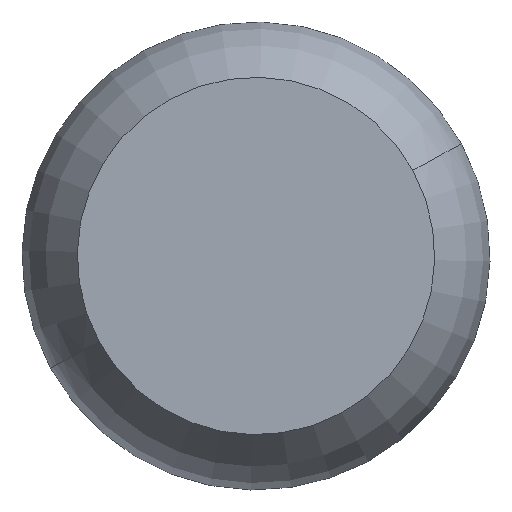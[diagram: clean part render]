
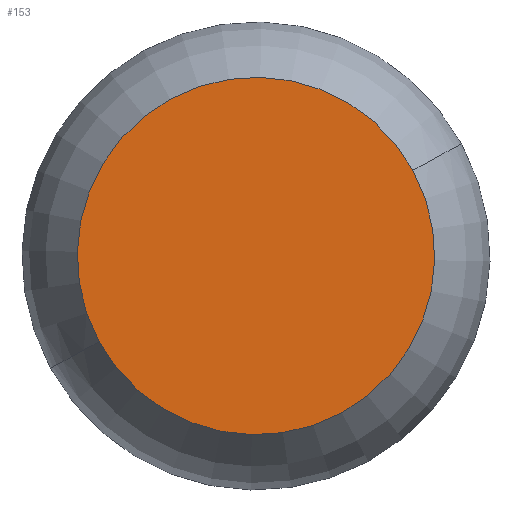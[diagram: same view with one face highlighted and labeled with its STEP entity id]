
A CAD part, front view. The second image highlights one B-rep face of the part: STEP entity #153.
In plain terms, the highlighted planar face has unit normal (0, -1, 0).
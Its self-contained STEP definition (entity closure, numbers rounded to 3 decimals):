
#66=CARTESIAN_POINT('Axis2P3D Location',(0.,0.,0.)) ;
#70=CARTESIAN_POINT('Vertex',(92.146,0.,50.34)) ;
#72=CARTESIAN_POINT('Vertex',(-92.146,0.,-50.34)) ;
#127=CARTESIAN_POINT('Axis2P3D Location',(0.,0.,0.)) ;
#144=CARTESIAN_POINT('Axis2P3D Location',(0.,0.,0.)) ;
#67=DIRECTION('Axis2P3D Direction',(0.,-1.,0.)) ;
#128=DIRECTION('Axis2P3D Direction',(0.,-1.,0.)) ;
#145=DIRECTION('Axis2P3D Direction',(0.,-1.,0.)) ;
#146=DIRECTION('Axis2P3D XDirection',(1.,0.,0.)) ;
#68=AXIS2_PLACEMENT_3D('Circle Axis2P3D',#66,#67,$) ;
#129=AXIS2_PLACEMENT_3D('Circle Axis2P3D',#127,#128,$) ;
#147=AXIS2_PLACEMENT_3D('Plane Axis2P3D',#144,#145,#146) ;
#150=ORIENTED_EDGE('',*,*,#74,.T.) ;
#151=ORIENTED_EDGE('',*,*,#131,.T.) ;
#153=ADVANCED_FACE('PartBody',(#152),#148,.T.) ;
#69=CIRCLE('generated circle',#68,105.) ;
#130=CIRCLE('generated circle',#129,105.) ;
#74=EDGE_CURVE('',#71,#73,#69,.T.) ;
#131=EDGE_CURVE('',#73,#71,#130,.T.) ;
#149=EDGE_LOOP('',(#150,#151)) ;
#152=FACE_OUTER_BOUND('',#149,.T.) ;
#148=PLANE('',#147) ;
#71=VERTEX_POINT('',#70) ;
#73=VERTEX_POINT('',#72) ;
